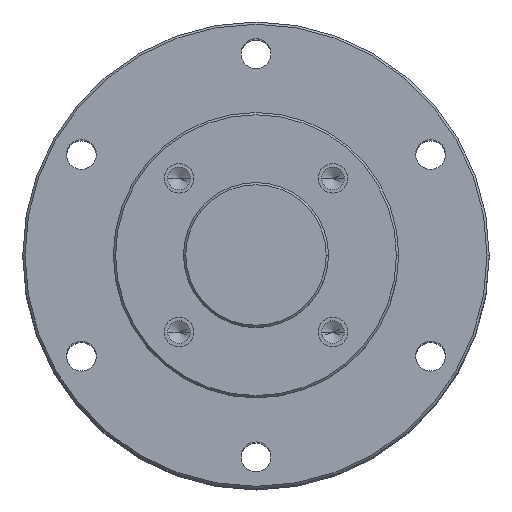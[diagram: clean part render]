
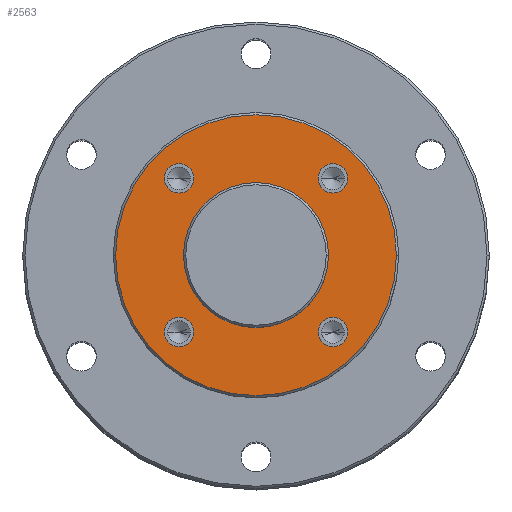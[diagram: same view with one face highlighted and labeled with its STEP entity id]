
A CAD part, top view. The second image highlights one B-rep face of the part: STEP entity #2563.
In plain terms, the highlighted planar face has unit normal (0, 0, 1).
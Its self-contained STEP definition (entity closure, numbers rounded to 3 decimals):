
#12 = CARTESIAN_POINT ( 'NONE',  ( -16.971, 16.971, 0. ) ) ;
#81 = EDGE_LOOP ( 'NONE', ( #2554, #5300 ) ) ;
#88 = ORIENTED_EDGE ( 'NONE', *, *, #4252, .F. ) ;
#185 = EDGE_CURVE ( 'NONE', #3257, #615, #501, .T. ) ;
#221 = CARTESIAN_POINT ( 'NONE',  ( -13.721, 16.971, 0. ) ) ;
#332 = CARTESIAN_POINT ( 'NONE',  ( -16.971, -16.971, 0. ) ) ;
#360 = DIRECTION ( 'NONE',  ( -1., 0., 0. ) ) ;
#371 = DIRECTION ( 'NONE',  ( 0., 0., 1. ) ) ;
#413 = VERTEX_POINT ( 'NONE', #221 ) ;
#414 = DIRECTION ( 'NONE',  ( 1., 0., 0. ) ) ;
#488 = ORIENTED_EDGE ( 'NONE', *, *, #828, .T. ) ;
#501 = CIRCLE ( 'NONE', #669, 31. ) ;
#562 = DIRECTION ( 'NONE',  ( 0., 0., 1. ) ) ;
#600 = ORIENTED_EDGE ( 'NONE', *, *, #4034, .F. ) ;
#615 = VERTEX_POINT ( 'NONE', #1783 ) ;
#659 = ORIENTED_EDGE ( 'NONE', *, *, #1619, .F. ) ;
#669 = AXIS2_PLACEMENT_3D ( 'NONE', #2301, #5329, #2731 ) ;
#723 = ORIENTED_EDGE ( 'NONE', *, *, #4452, .F. ) ;
#733 = DIRECTION ( 'NONE',  ( -1., 0., 0. ) ) ;
#749 = EDGE_LOOP ( 'NONE', ( #1134, #2180 ) ) ;
#813 = AXIS2_PLACEMENT_3D ( 'NONE', #12, #2931, #414 ) ;
#828 = EDGE_CURVE ( 'NONE', #615, #3257, #4227, .T. ) ;
#933 = VERTEX_POINT ( 'NONE', #2693 ) ;
#977 = AXIS2_PLACEMENT_3D ( 'NONE', #2881, #371, #3315 ) ;
#1106 = FACE_OUTER_BOUND ( 'NONE', #4254, .T. ) ;
#1115 = DIRECTION ( 'NONE',  ( 0., 0., 1. ) ) ;
#1134 = ORIENTED_EDGE ( 'NONE', *, *, #1208, .F. ) ;
#1138 = CARTESIAN_POINT ( 'NONE',  ( 0., 0., 0. ) ) ;
#1164 = AXIS2_PLACEMENT_3D ( 'NONE', #1138, #4129, #1562 ) ;
#1201 = AXIS2_PLACEMENT_3D ( 'NONE', #5448, #2861, #360 ) ;
#1208 = EDGE_CURVE ( 'NONE', #4056, #1727, #1325, .T. ) ;
#1212 = CARTESIAN_POINT ( 'NONE',  ( 20.221, 16.971, 0. ) ) ;
#1325 = CIRCLE ( 'NONE', #977, 16. ) ;
#1357 = CIRCLE ( 'NONE', #3422, 3.25 ) ;
#1366 = CIRCLE ( 'NONE', #5432, 3.25 ) ;
#1384 = CIRCLE ( 'NONE', #1164, 16. ) ;
#1487 = EDGE_CURVE ( 'NONE', #1727, #4056, #1384, .T. ) ;
#1562 = DIRECTION ( 'NONE',  ( 1., 0., 0. ) ) ;
#1574 = AXIS2_PLACEMENT_3D ( 'NONE', #4393, #2266, #5301 ) ;
#1581 = CIRCLE ( 'NONE', #1900, 3.25 ) ;
#1619 = EDGE_CURVE ( 'NONE', #4293, #933, #3006, .T. ) ;
#1647 = EDGE_LOOP ( 'NONE', ( #659, #4231 ) ) ;
#1695 = DIRECTION ( 'NONE',  ( 0., 0., 1. ) ) ;
#1727 = VERTEX_POINT ( 'NONE', #2462 ) ;
#1748 = EDGE_CURVE ( 'NONE', #4225, #3529, #1581, .T. ) ;
#1783 = CARTESIAN_POINT ( 'NONE',  ( 31., 0., 0. ) ) ;
#1833 = CARTESIAN_POINT ( 'NONE',  ( 16.971, -16.971, 0. ) ) ;
#1900 = AXIS2_PLACEMENT_3D ( 'NONE', #4272, #1695, #4736 ) ;
#2114 = FACE_BOUND ( 'NONE', #1647, .T. ) ;
#2136 = VERTEX_POINT ( 'NONE', #3995 ) ;
#2150 = DIRECTION ( 'NONE',  ( 0., 0., 1. ) ) ;
#2180 = ORIENTED_EDGE ( 'NONE', *, *, #1487, .F. ) ;
#2257 = DIRECTION ( 'NONE',  ( 1., 0., 0. ) ) ;
#2260 = CARTESIAN_POINT ( 'NONE',  ( -16.971, 16.971, 0. ) ) ;
#2266 = DIRECTION ( 'NONE',  ( 0., 0., -1. ) ) ;
#2301 = CARTESIAN_POINT ( 'NONE',  ( 0., 0., 0. ) ) ;
#2371 = FACE_BOUND ( 'NONE', #749, .T. ) ;
#2462 = CARTESIAN_POINT ( 'NONE',  ( -16., 0., 0. ) ) ;
#2511 = EDGE_CURVE ( 'NONE', #3529, #4225, #1366, .T. ) ;
#2554 = ORIENTED_EDGE ( 'NONE', *, *, #2511, .F. ) ;
#2563 = ADVANCED_FACE ( 'NONE', ( #1106, #4552, #4397, #3245, #2114, #2371 ), #4888, .F. ) ;
#2592 = AXIS2_PLACEMENT_3D ( 'NONE', #3662, #1115, #4097 ) ;
#2691 = DIRECTION ( 'NONE',  ( 1., 0., 0. ) ) ;
#2693 = CARTESIAN_POINT ( 'NONE',  ( 13.721, -16.971, 0. ) ) ;
#2706 = CARTESIAN_POINT ( 'NONE',  ( -31., 0., 0. ) ) ;
#2731 = DIRECTION ( 'NONE',  ( -1., 0., 0. ) ) ;
#2861 = DIRECTION ( 'NONE',  ( 0., 0., 1. ) ) ;
#2880 = ORIENTED_EDGE ( 'NONE', *, *, #3072, .F. ) ;
#2881 = CARTESIAN_POINT ( 'NONE',  ( 0., 0., 0. ) ) ;
#2920 = CARTESIAN_POINT ( 'NONE',  ( -20.221, -16.971, 0. ) ) ;
#2931 = DIRECTION ( 'NONE',  ( 0., 0., 1. ) ) ;
#3006 = CIRCLE ( 'NONE', #2592, 3.25 ) ;
#3072 = EDGE_CURVE ( 'NONE', #4579, #413, #3098, .T. ) ;
#3075 = AXIS2_PLACEMENT_3D ( 'NONE', #1833, #4873, #2257 ) ;
#3098 = CIRCLE ( 'NONE', #813, 3.25 ) ;
#3099 = CARTESIAN_POINT ( 'NONE',  ( 16.971, 16.971, 0. ) ) ;
#3154 = CIRCLE ( 'NONE', #3903, 3.25 ) ;
#3162 = CARTESIAN_POINT ( 'NONE',  ( -20.221, 16.971, 0. ) ) ;
#3203 = EDGE_CURVE ( 'NONE', #933, #4293, #5023, .T. ) ;
#3245 = FACE_BOUND ( 'NONE', #81, .T. ) ;
#3257 = VERTEX_POINT ( 'NONE', #2706 ) ;
#3268 = DIRECTION ( 'NONE',  ( 0., 0., 1. ) ) ;
#3315 = DIRECTION ( 'NONE',  ( 1., 0., 0. ) ) ;
#3373 = CIRCLE ( 'NONE', #4719, 3.25 ) ;
#3422 = AXIS2_PLACEMENT_3D ( 'NONE', #2260, #5289, #2691 ) ;
#3524 = DIRECTION ( 'NONE',  ( -1., 0., 0. ) ) ;
#3529 = VERTEX_POINT ( 'NONE', #1212 ) ;
#3662 = CARTESIAN_POINT ( 'NONE',  ( 16.971, -16.971, 0. ) ) ;
#3715 = CARTESIAN_POINT ( 'NONE',  ( 16., 0., 0. ) ) ;
#3831 = CARTESIAN_POINT ( 'NONE',  ( 13.721, 16.971, 0. ) ) ;
#3903 = AXIS2_PLACEMENT_3D ( 'NONE', #332, #3268, #733 ) ;
#3995 = CARTESIAN_POINT ( 'NONE',  ( -13.721, -16.971, 0. ) ) ;
#4034 = EDGE_CURVE ( 'NONE', #2136, #4128, #3154, .T. ) ;
#4056 = VERTEX_POINT ( 'NONE', #3715 ) ;
#4097 = DIRECTION ( 'NONE',  ( 1., 0., 0. ) ) ;
#4128 = VERTEX_POINT ( 'NONE', #2920 ) ;
#4129 = DIRECTION ( 'NONE',  ( 0., 0., 1. ) ) ;
#4143 = ORIENTED_EDGE ( 'NONE', *, *, #185, .T. ) ;
#4225 = VERTEX_POINT ( 'NONE', #3831 ) ;
#4227 = CIRCLE ( 'NONE', #1201, 31. ) ;
#4231 = ORIENTED_EDGE ( 'NONE', *, *, #3203, .F. ) ;
#4252 = EDGE_CURVE ( 'NONE', #4128, #2136, #3373, .T. ) ;
#4254 = EDGE_LOOP ( 'NONE', ( #4143, #488 ) ) ;
#4272 = CARTESIAN_POINT ( 'NONE',  ( 16.971, 16.971, 0. ) ) ;
#4293 = VERTEX_POINT ( 'NONE', #5167 ) ;
#4339 = EDGE_LOOP ( 'NONE', ( #723, #2880 ) ) ;
#4393 = CARTESIAN_POINT ( 'NONE',  ( 0., 31.5, 0. ) ) ;
#4397 = FACE_BOUND ( 'NONE', #5021, .T. ) ;
#4452 = EDGE_CURVE ( 'NONE', #413, #4579, #1357, .T. ) ;
#4552 = FACE_BOUND ( 'NONE', #4339, .T. ) ;
#4579 = VERTEX_POINT ( 'NONE', #3162 ) ;
#4719 = AXIS2_PLACEMENT_3D ( 'NONE', #4761, #2150, #5182 ) ;
#4736 = DIRECTION ( 'NONE',  ( -1., 0., 0. ) ) ;
#4761 = CARTESIAN_POINT ( 'NONE',  ( -16.971, -16.971, 0. ) ) ;
#4873 = DIRECTION ( 'NONE',  ( 0., 0., 1. ) ) ;
#4888 = PLANE ( 'NONE',  #1574 ) ;
#5021 = EDGE_LOOP ( 'NONE', ( #600, #88 ) ) ;
#5023 = CIRCLE ( 'NONE', #3075, 3.25 ) ;
#5167 = CARTESIAN_POINT ( 'NONE',  ( 20.221, -16.971, 0. ) ) ;
#5182 = DIRECTION ( 'NONE',  ( -1., 0., 0. ) ) ;
#5289 = DIRECTION ( 'NONE',  ( 0., 0., 1. ) ) ;
#5300 = ORIENTED_EDGE ( 'NONE', *, *, #1748, .F. ) ;
#5301 = DIRECTION ( 'NONE',  ( -1., 0., 0. ) ) ;
#5329 = DIRECTION ( 'NONE',  ( 0., 0., 1. ) ) ;
#5432 = AXIS2_PLACEMENT_3D ( 'NONE', #3099, #562, #3524 ) ;
#5448 = CARTESIAN_POINT ( 'NONE',  ( 0., 0., 0. ) ) ;
